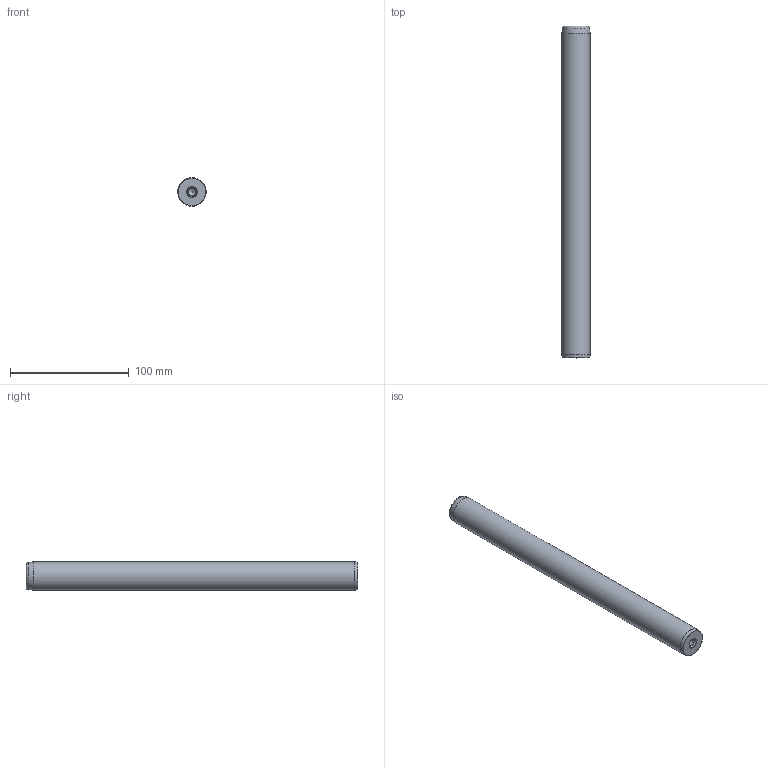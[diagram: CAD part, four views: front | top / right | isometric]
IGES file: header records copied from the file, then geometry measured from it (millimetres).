
Start section: Missler Software BP 521, 31674 Labege Cedex, France Tel   : +33 (0)5 61 00 03 00 Fax   : +33 (0)5 61 00 03 03 Email : sup.topsolid@topsolid.com
Global section: file name: D:\Cuma\D14\D14_24280.igs; native system: TopSolid v605250 Missler Software; preprocessor: IGES preprocessor v100000; date: 030120.192345; units: millimetre
Bounding box: 23.97 x 280 x 24 mm (x, y, z)
Surface area: 23008.1 mm2 (no closed solid volume)
Topology: 0 solids, 0 shells, 14 faces, 145 edges, 136 vertices
Faces by surface type: bspline 14
